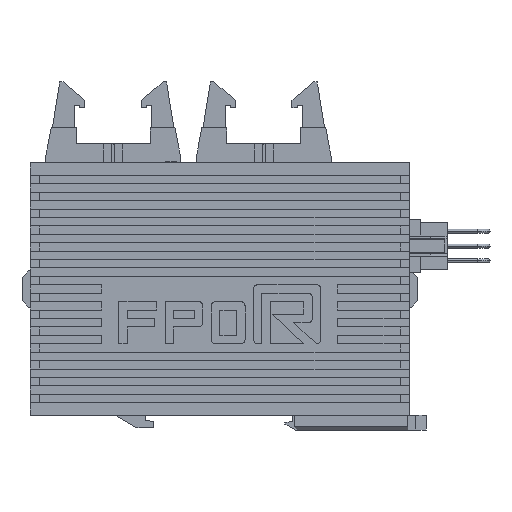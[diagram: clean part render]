
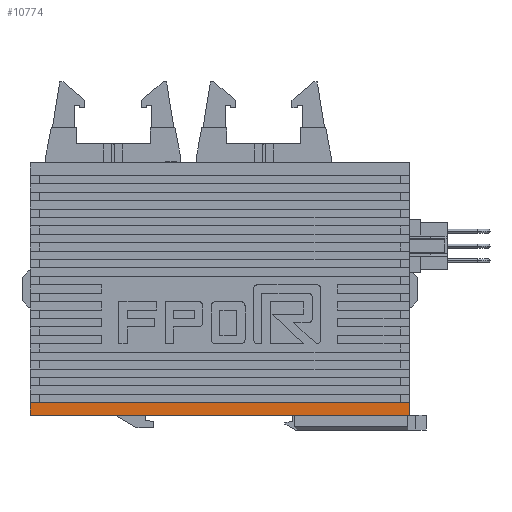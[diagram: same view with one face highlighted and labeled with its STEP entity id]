
A CAD part, left-side view. The second image highlights one B-rep face of the part: STEP entity #10774.
In plain terms, the highlighted planar face has unit normal (-1, 0, 0).
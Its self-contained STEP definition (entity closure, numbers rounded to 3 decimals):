
#8770 = VERTEX_POINT ( 'NONE', #22027 ) ;
#8909 = EDGE_CURVE ( 'NONE', #8770, #8940, #22236, .T. ) ;
#8940 = VERTEX_POINT ( 'NONE', #22308 ) ;
#9968 = VERTEX_POINT ( 'NONE', #24117 ) ;
#10049 = EDGE_CURVE ( 'NONE', #9968, #8940, #24300, .T. ) ;
#10771 = EDGE_CURVE ( 'NONE', #10772, #9968, #25494, .T. ) ;
#10772 = VERTEX_POINT ( 'NONE', #25490 ) ;
#10773 = ORIENTED_EDGE ( 'NONE', *, *, #10777, .T. ) ;
#10774 = ADVANCED_FACE ( 'NONE', ( #25459 ), #25548, .F. ) ;
#10776 = ORIENTED_EDGE ( 'NONE', *, *, #10049, .F. ) ;
#10777 = EDGE_CURVE ( 'NONE', #10772, #8770, #25504, .T. ) ;
#10782 = ORIENTED_EDGE ( 'NONE', *, *, #10771, .F. ) ;
#10788 = ORIENTED_EDGE ( 'NONE', *, *, #8909, .T. ) ;
#10790 = EDGE_LOOP ( 'NONE', ( #10776, #10782, #10773, #10788 ) ) ;
#22027 = CARTESIAN_POINT ( 'NONE',  ( -12.5, 45., 0. ) ) ;
#22227 = DIRECTION ( 'NONE',  ( 0., -1., 0. ) ) ;
#22228 = VECTOR ( 'NONE', #22227, 1000. ) ;
#22235 = CARTESIAN_POINT ( 'NONE',  ( -12.5, 45., 0. ) ) ;
#22236 = LINE ( 'NONE', #22235, #22228 ) ;
#22308 = CARTESIAN_POINT ( 'NONE',  ( -12.5, -45., 0. ) ) ;
#24117 = CARTESIAN_POINT ( 'NONE',  ( -12.5, -45., 3. ) ) ;
#24297 = DIRECTION ( 'NONE',  ( 0., 0., -1. ) ) ;
#24298 = VECTOR ( 'NONE', #24297, 1000. ) ;
#24299 = CARTESIAN_POINT ( 'NONE',  ( -12.5, -45., 60. ) ) ;
#24300 = LINE ( 'NONE', #24299, #24298 ) ;
#25459 = FACE_OUTER_BOUND ( 'NONE', #10790, .T. ) ;
#25490 = CARTESIAN_POINT ( 'NONE',  ( -12.5, 45., 3. ) ) ;
#25494 = LINE ( 'NONE', #25545, #25544 ) ;
#25504 = LINE ( 'NONE', #25540, #25539 ) ;
#25535 = DIRECTION ( 'NONE',  ( 0., 0., -1. ) ) ;
#25537 = DIRECTION ( 'NONE',  ( 0., 1., 0. ) ) ;
#25538 = DIRECTION ( 'NONE',  ( 1., 0., 0. ) ) ;
#25539 = VECTOR ( 'NONE', #25535, 1000. ) ;
#25540 = CARTESIAN_POINT ( 'NONE',  ( -12.5, 45., 60. ) ) ;
#25542 = AXIS2_PLACEMENT_3D ( 'NONE', #25547, #25538, #25537 ) ;
#25543 = DIRECTION ( 'NONE',  ( 0., -1., 0. ) ) ;
#25544 = VECTOR ( 'NONE', #25543, 1000. ) ;
#25545 = CARTESIAN_POINT ( 'NONE',  ( -12.5, 45., 3. ) ) ;
#25547 = CARTESIAN_POINT ( 'NONE',  ( -12.5, 45., 60. ) ) ;
#25548 = PLANE ( 'NONE',  #25542 ) ;
